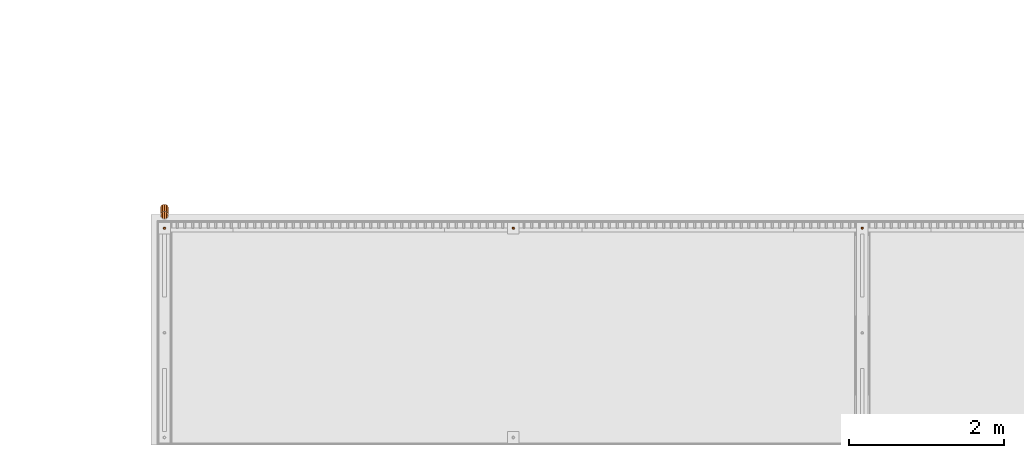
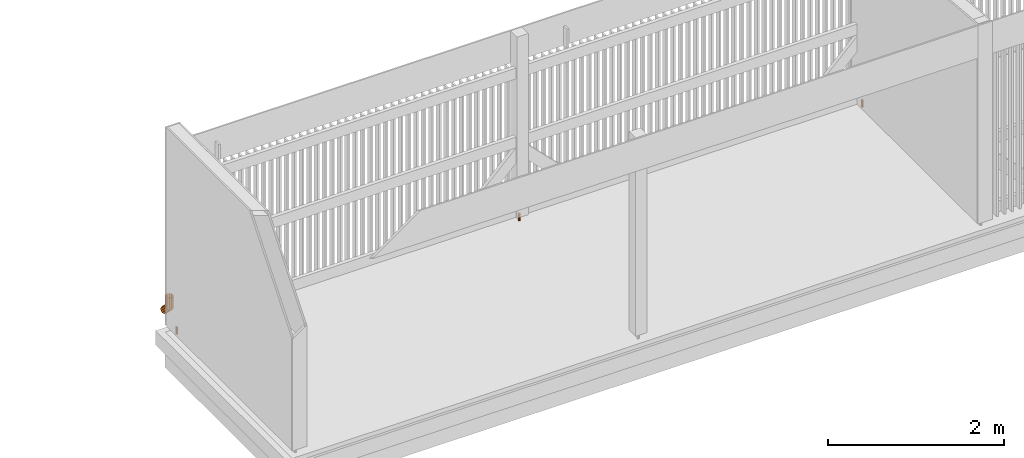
# One storey, part 375 of 418: 4 proxies.
"""IFC2X3 building model written with IfcOpenShell, lengths in millimetres."""

from ifc_helpers import new_model, entity, si_unit, converted_unit, derived_unit, money_unit, direction, frame, origin_with_axes, origin_2d_with_axis, place, context, subcontext, project, spatial, circle, extrude, open_shell, surface_model, source, transform, mapped, material, type_object, element, save


model = new_model("IFC2X3")

# Units and contexts
model_context = context("Model", 3, precision=0.01, world=origin_with_axes(), true_north=direction((0.0, 1.0)))
body_context = subcontext(model_context, "Body", "Model", "MODEL_VIEW")
ifc_project = project(units=[si_unit("LENGTHUNIT", "METRE", prefix="MILLI"), si_unit("AREAUNIT", "SQUARE_METRE"), si_unit("VOLUMEUNIT", "CUBIC_METRE"), converted_unit("PLANEANGLEUNIT", "DEGREE", entity("IfcPlaneAngleMeasure", 0.0174532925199), si_unit("PLANEANGLEUNIT", "RADIAN"), dimensions=[0, 0, 0, 0, 0, 0, 0]), si_unit("SOLIDANGLEUNIT", "STERADIAN"), money_unit("EUR"), converted_unit("TIMEUNIT", "Year", entity("IfcTimeMeasure", 31556926.0), si_unit("TIMEUNIT", "SECOND"), dimensions=[0, 0, 1, 0, 0, 0, 0]), si_unit("MASSUNIT", "GRAM", prefix="KILO"), si_unit("THERMODYNAMICTEMPERATUREUNIT", "DEGREE_CELSIUS"), si_unit("LUMINOUSINTENSITYUNIT", "LUMEN"), si_unit("ENERGYUNIT", "JOULE", prefix="MEGA"), derived_unit("THERMALCONDUCTANCEUNIT", [(si_unit("POWERUNIT", "WATT"), 1), (si_unit("LENGTHUNIT", "METRE"), -1), (si_unit("THERMODYNAMICTEMPERATUREUNIT", "KELVIN"), -1)]), derived_unit("SPECIFICHEATCAPACITYUNIT", [(si_unit("ENERGYUNIT", "JOULE"), 1), (si_unit("MASSUNIT", "GRAM", prefix="KILO"), -1), (si_unit("THERMODYNAMICTEMPERATUREUNIT", "KELVIN"), -1)]), derived_unit("MASSDENSITYUNIT", [(si_unit("MASSUNIT", "GRAM", prefix="KILO"), 1), (si_unit("VOLUMEUNIT", "CUBIC_METRE"), -1)])], contexts=[model_context])

# Site, building, storey
site_placement = place(None, origin_with_axes())
site = spatial("IfcSite", under=ifc_project, at=site_placement, Name="Paldiski mnt 245/1, Tallinn, Harjumaa", CompositionType="COMPLEX")
building_placement = place(site_placement, origin_with_axes())
building = spatial("IfcBuilding", under=site, at=building_placement, Name="RKAS Hoone üldnimetus (kasutust iseloomustav) -> IFC Project Manager -> SOLIBRI", CompositionType="ELEMENT")
storey_placement = place(building_placement, origin_with_axes())
storey = spatial("IfcBuildingStorey", under=building, at=storey_placement, Name="Esimene korrus", CompositionType="ELEMENT", Elevation=0.0)

# Proxies
building_element_proxy_type_1 = type_object("IfcBuildingElementProxyType", Name="Downspout Elbow 23", PredefinedType="NOTDEFINED")
shared_shape = source(origin_with_axes(), body_context, "Body", "SurfaceModel", [
    surface_model("IfcShellBasedSurfaceModel", [(-50.0, 0.0, 291.35533906), (-43.3012701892, 25.0, 291.35533906), (-43.3012701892, 25.0, 131.0), (-50.0, 0.0, 141.35533906), (-25.0, 43.3012701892, 291.35533906), (-25.0, 43.3012701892, 123.419365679), (-43.3012701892, -88.3223304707, 17.6776695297), (-50.0, -106.0, 35.3553390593), (-43.3012701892, -25.0, 291.35533906), (-43.3012701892, -25.0, 151.710678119), (0.0, 50.0, 291.35533906), (0.0, 50.0, 120.644660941), (-25.0, -75.3813782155, 4.73671727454), (-43.3012701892, -123.67766953, 53.033008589), (-25.0, -43.3012701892, 291.35533906), (-25.0, -43.3012701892, 159.29131244), (25.0, 43.3012701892, 291.35533906), (25.0, 43.3012701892, 123.419365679), (0.0, -70.644660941, 0.0), (-25.0, -136.618621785, 65.9739608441), (0.0, -50.0, 291.35533906), (0.0, -50.0, 162.066017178), (43.3012701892, 25.0, 291.35533906), (43.3012701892, 25.0, 131.0), (25.0, -75.3813782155, 4.73671727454), (0.0, -141.35533906, 70.7106781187), (25.0, -43.3012701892, 291.35533906), (25.0, -43.3012701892, 159.29131244), (50.0, 0.0, 291.35533906), (50.0, 0.0, 141.35533906), (43.3012701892, -88.3223304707, 17.6776695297), (25.0, -136.618621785, 65.9739608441), (43.3012701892, -25.0, 291.35533906), (43.3012701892, -25.0, 151.710678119), (50.0, -106.0, 35.3553390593), (43.3012701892, -123.67766953, 53.033008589)], [open_shell([[[0, 1, 2, 3]], [[1, 4, 5, 2]], [[3, 2, 6, 7]], [[8, 0, 3, 9]], [[4, 10, 11, 5]], [[2, 5, 12, 6]], [[9, 3, 7, 13]], [[14, 8, 9, 15]], [[10, 16, 17, 11]], [[5, 11, 18, 12]], [[15, 9, 13, 19]], [[20, 14, 15, 21]], [[16, 22, 23, 17]], [[11, 17, 24, 18]], [[21, 15, 19, 25]], [[26, 20, 21, 27]], [[22, 28, 29, 23]], [[17, 23, 30, 24]], [[27, 21, 25, 31]], [[32, 26, 27, 33]], [[28, 32, 33, 29]], [[23, 29, 34, 30]], [[33, 27, 31, 35]], [[29, 33, 35, 34]]])]),
])
proxy_placement = place(storey_placement, frame((-20974.2718012, 14111.438141, -923.255696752), z_axis=(0.0, 0.0, 1.0), x_axis=(-1.0, 0.0, 0.0)))
element("IfcBuildingElementProxy", 1, at=proxy_placement, inside=storey, type_object=building_element_proxy_type_1, Name="Vihmaveetoru", context=body_context, shape_type="MappedRepresentation", body=[
    mapped(shared_shape, transform((0.0, 0.0, 0.0))),
])
ifc_material = material(Name="ET-03_Raud")
building_element_proxy_type_2 = type_object("IfcBuildingElementProxyType", Name="ET-03_Raud D30", PredefinedType="NOTDEFINED")
for number, where, z_axis, x_axis in (
    (2, (-11974.2718012, 13944.7949578, -1060.0), (0.0, 0.0, 1.0), (-1.0, 0.0, 0.0)),
    (3, (-20974.2718012, 13944.7949578, -1060.0), (0.0, 0.0, 1.0), (-1.0, 0.0, 0.0)),
    (4, (-16474.2718012, 13944.7949578, -1060.0), (0.0, 0.0, 1.0), (-1.0, 0.0, 0.0)),
):
    element("IfcBuildingElementProxy", number, at=place(storey_placement, frame(where, z_axis=z_axis, x_axis=x_axis)), inside=storey, type_object=building_element_proxy_type_2, material=ifc_material, Name="Terasking", context=body_context, shape_type="SweptSolid", body=[
        extrude(circle(Radius=15.0, at=origin_2d_with_axis()), origin_with_axes(), (0.0, 0.0, 1.0), 100.0),
    ])

save(model, "model.ifc")
